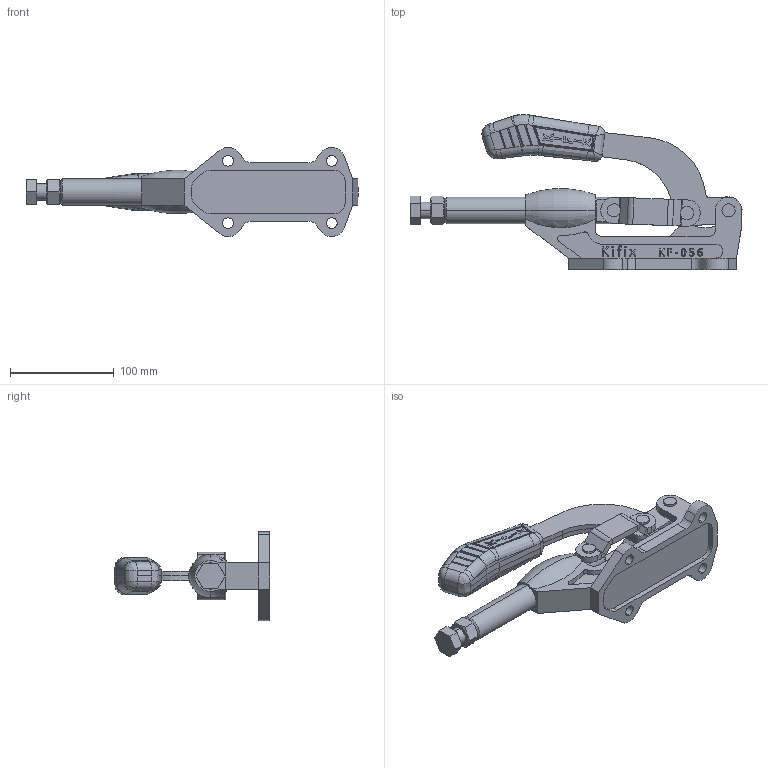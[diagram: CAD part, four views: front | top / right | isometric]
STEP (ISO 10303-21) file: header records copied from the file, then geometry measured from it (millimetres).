
FILE_DESCRIPTION (( 'STEP AP203' ), '1' );
FILE_NAME ('KF-056.STEP', '2014-08-25T18:09:12', ( 'Ricardo' ), ( '' ), 'SwSTEP 2.0', 'SolidWorks 2013', '' );
FILE_SCHEMA (( 'CONFIG_CONTROL_DESIGN' ));
Length unit declared in the file: millimetre
Products named in the file (11): 08.10033; PP-M16; 12.50023; 3670000125; 11.50006; 3670000124; 07.60003; KF-056; 02.30012; 01.10084; 03.20040
Assembly tree (13 placements, depth 3):
  KF-056
    02.30012
    01.10084  x2
    03.20040
    08.10033  x2
    PP-M16
      12.50023
      11.50006
    3670000125  x2
    3670000124
    07.60003
Bounding box: 319.9 x 149.51 x 85.99 mm (x, y, z)
Volume: 522943.7 mm3; surface area: 153507.3 mm2
Topology: 12 solids, 12 shells, 1041 faces, 2697 edges, 1725 vertices
Faces by surface type: plane 395, bspline 345, cylinder 219, sphere 54, cone 22, torus 6
Entity records: 42567 total; most frequent: CARTESIAN_POINT 20446, ORIENTED_EDGE 4998, DIRECTION 3250, EDGE_CURVE 2499, VERTEX_POINT 1610, AXIS2_PLACEMENT_3D 1090, LINE 1070, VECTOR 1070
